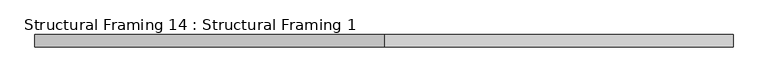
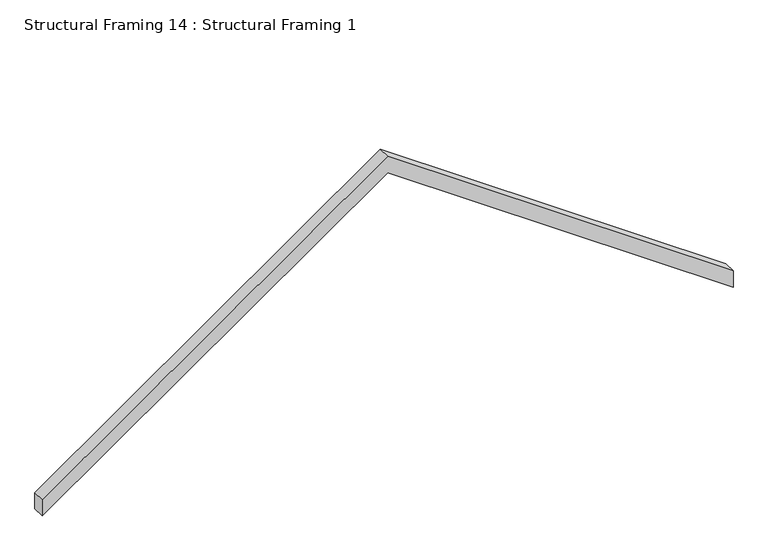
"""IFC4 building model written with IfcOpenShell, lengths in millimetres: beam geometry, Structural Framing 14 : Structural Framing 1."""

from ifc_helpers import new_model, si_unit, origin, place, context, project, spatial, faceted_brep, source, transform, mapped, element, save


def structural_framing_14_structural_framing_1_1f79d0da(model_context):
    return source(origin(), model_context, "Body", "Brep", [
        faceted_brep([(1206.7789073, 3925.5508021, 2800.0), (5132.5693297, 3925.5508021, 51.1319528), (5132.5693297, 3925.5508021, -144.1919814), (4152.5693297, 3925.5508021, 542.0114061), (4152.5693297, 3925.5508021, 656.0155568), (3989.754529, 3925.5508021, 656.0155568), (2104.6892189, 3925.5508021, 1975.9524969), (2104.6892189, 3925.5508021, 2089.9566477), (1941.8744183, 3925.5508021, 2089.9566477), (1206.7789073, 3925.5508021, 2604.6760658), (471.6833963, 3925.5508021, 2089.9566477), (308.8685956, 3925.5508021, 2089.9566477), (308.8685956, 3925.5508021, 1975.9524969), (-1576.1967145, 3925.5508021, 656.0155568), (-1739.0115151, 3925.5508021, 656.0155568), (-1739.0115151, 3925.5508021, 542.0114061), (-2719.0115151, 3925.5508021, -144.1919814), (-2719.0115151, 3925.5508021, 51.1319528), (1206.7789073, 3785.5508021, 2800.0), (-2719.0115151, 3785.5508021, 51.1319528), (-2719.0115151, 3785.5508021, -144.1919814), (1206.7789073, 3785.5508021, 2604.6760658), (5132.5693297, 3785.5508021, -144.1919814), (5132.5693297, 3785.5508021, 51.1319528), (1941.8744183, 3906.5064101, 2089.9566477), (2104.6892189, 3906.5064101, 1975.9524969), (3989.754529, 3906.5064101, 656.0155568), (4152.5693297, 3906.5064101, 542.0114061), (-1739.0115151, 3906.5064101, 542.0114061), (-1576.1967145, 3906.5064101, 656.0155568), (308.8685956, 3906.5064101, 1975.9524969), (471.6833963, 3906.5064101, 2089.9566477), (4152.5693297, 3906.5064101, 656.0155568), (-1739.0115151, 3906.5064101, 656.0155568), (308.8685956, 3906.5064101, 2089.9566477), (2104.6892189, 3906.5064101, 2089.9566477)], [[[0, 1, 2, 3, 4, 5, 6, 7, 8, 9, 10, 11, 12, 13, 14, 15, 16, 17]], [[18, 19, 20, 21, 22, 23]], [[1, 0, 18, 23]], [[2, 1, 23, 22]], [[22, 21, 9, 8, 24, 25, 6, 5, 26, 27, 3, 2]], [[21, 20, 16, 15, 28, 29, 13, 12, 30, 31, 10, 9]], [[17, 16, 20, 19]], [[0, 17, 19, 18]], [[32, 27, 26]], [[29, 33, 14, 13]], [[33, 28, 15, 14]], [[27, 32, 4, 3]], [[32, 26, 5, 4]], [[31, 34, 11, 10]], [[34, 30, 12, 11]], [[25, 35, 7, 6]], [[35, 24, 8, 7]], [[35, 25, 24]], [[34, 31, 30]], [[33, 29, 28]]]),
    ])


if __name__ == "__main__":
    model = new_model("IFC4")
    model_context = context("Model", 3, world=origin())
    ifc_project = project(units=[si_unit("LENGTHUNIT", "METRE", prefix="MILLI")], contexts=[model_context])
    site = spatial("IfcSite", under=ifc_project)
    building = spatial("IfcBuilding", under=site)
    placement = place(None, origin())
    structural_framing_14_structural_framing_1_shape = structural_framing_14_structural_framing_1_1f79d0da(model_context)
    element("IfcBeam", 1, ObjectType="Structural Framing 14 : Structural Framing 1", at=placement, inside=building, context=model_context, shape_type="MappedRepresentation", body=[
        mapped(structural_framing_14_structural_framing_1_shape, transform((0.0, 0.0, 0.0), x_axis=(1.0, 0.0, 0.0), y_axis=(0.0, 1.0, 0.0), z_axis=(0.0, 0.0, 1.0))),
    ])
    save(model, "model.ifc")
